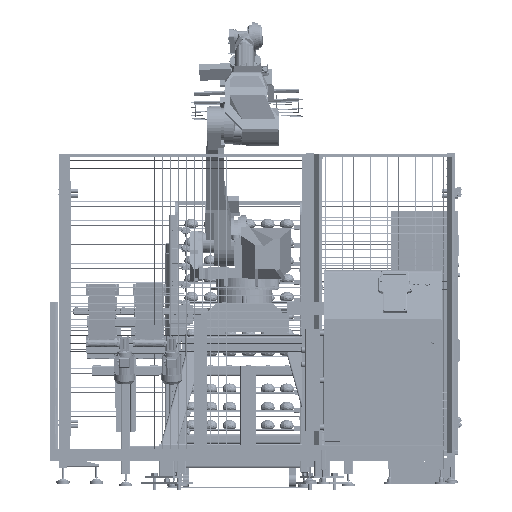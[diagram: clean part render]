
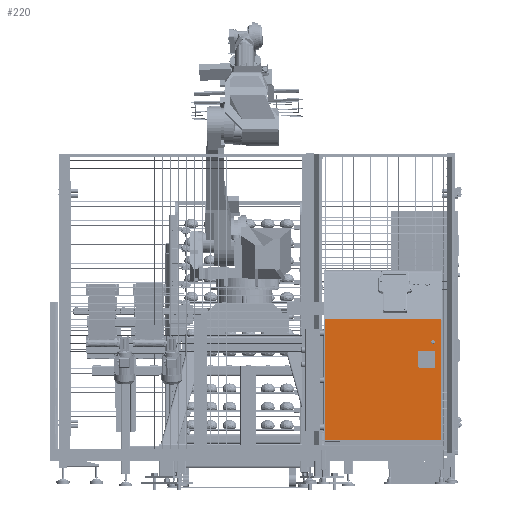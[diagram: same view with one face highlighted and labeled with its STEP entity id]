
A CAD part, left-side view. The second image highlights one B-rep face of the part: STEP entity #220.
In plain terms, the highlighted planar face has unit normal (-1, 0, 0) as drawn and (0, 0, 1) by its records, which use the part's own axes.
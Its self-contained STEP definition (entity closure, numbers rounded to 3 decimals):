
#220 = ADVANCED_FACE ( 'NONE', ( #80480, #281280, #470655 ), #156347, .F. ) ;
#1772 = EDGE_CURVE ( 'NONE', #175395, #409789, #363941, .T. ) ;
#8863 = EDGE_LOOP ( 'NONE', ( #258495, #340625 ) ) ;
#11629 = VERTEX_POINT ( 'NONE', #69929 ) ;
#12728 = LINE ( 'NONE', #183443, #190030 ) ;
#17175 = ORIENTED_EDGE ( 'NONE', *, *, #177081, .T. ) ;
#17374 = CIRCLE ( 'NONE', #393620, 4. ) ;
#20014 = DIRECTION ( 'NONE',  ( 0., 0., 1. ) ) ;
#27443 = ORIENTED_EDGE ( 'NONE', *, *, #204150, .F. ) ;
#36175 = CARTESIAN_POINT ( 'NONE',  ( 223., 588.5, 275. ) ) ;
#37891 = VERTEX_POINT ( 'NONE', #140637 ) ;
#40144 = LINE ( 'NONE', #365012, #229204 ) ;
#43004 = AXIS2_PLACEMENT_3D ( 'NONE', #232363, #82042, #346258 ) ;
#45496 = VECTOR ( 'NONE', #133326, 1000. ) ;
#52110 = VECTOR ( 'NONE', #282692, 1000. ) ;
#57157 = CIRCLE ( 'NONE', #235086, 4. ) ;
#58330 = AXIS2_PLACEMENT_3D ( 'NONE', #191273, #455718, #229239 ) ;
#63084 = AXIS2_PLACEMENT_3D ( 'NONE', #246120, #20014, #284112 ) ;
#67833 = EDGE_CURVE ( 'NONE', #409789, #143420, #135337, .T. ) ;
#69174 = LINE ( 'NONE', #247239, #45496 ) ;
#69929 = CARTESIAN_POINT ( 'NONE',  ( 326.5, 651.5, 275. ) ) ;
#78921 = CARTESIAN_POINT ( 'NONE',  ( 323., 588.5, 275. ) ) ;
#80480 = FACE_BOUND ( 'NONE', #191364, .T. ) ;
#82042 = DIRECTION ( 'NONE',  ( 0., 0., -1. ) ) ;
#84262 = CARTESIAN_POINT ( 'NONE',  ( 327., 588.5, 275. ) ) ;
#91259 = VERTEX_POINT ( 'NONE', #135946 ) ;
#94066 = VERTEX_POINT ( 'NONE', #104956 ) ;
#104956 = CARTESIAN_POINT ( 'NONE',  ( 227., 592.5, 275. ) ) ;
#109235 = EDGE_CURVE ( 'NONE', #239864, #200751, #57157, .T. ) ;
#116851 = DIRECTION ( 'NONE',  ( -1., 0., 0. ) ) ;
#126426 = CIRCLE ( 'NONE', #476875, 11.5 ) ;
#133326 = DIRECTION ( 'NONE',  ( 1., 0., 0. ) ) ;
#135337 = CIRCLE ( 'NONE', #63084, 4. ) ;
#135534 = CARTESIAN_POINT ( 'NONE',  ( 327., 492.5, 275. ) ) ;
#135946 = CARTESIAN_POINT ( 'NONE',  ( 365., 33., 275. ) ) ;
#140289 = DIRECTION ( 'NONE',  ( 1., 0., 0. ) ) ;
#140637 = CARTESIAN_POINT ( 'NONE',  ( -365., 33., 275. ) ) ;
#143420 = VERTEX_POINT ( 'NONE', #281886 ) ;
#156347 = PLANE ( 'NONE',  #43004 ) ;
#158372 = CARTESIAN_POINT ( 'NONE',  ( 315., 651.5, 275. ) ) ;
#162913 = VECTOR ( 'NONE', #364464, 1000. ) ;
#163039 = LINE ( 'NONE', #230416, #352218 ) ;
#168024 = CARTESIAN_POINT ( 'NONE',  ( 303.5, 651.5, 275. ) ) ;
#172307 = DIRECTION ( 'NONE',  ( 0., 1., 0. ) ) ;
#175395 = VERTEX_POINT ( 'NONE', #36175 ) ;
#177081 = EDGE_CURVE ( 'NONE', #37891, #91259, #40144, .T. ) ;
#177884 = AXIS2_PLACEMENT_3D ( 'NONE', #158372, #422855, #196435 ) ;
#181206 = CARTESIAN_POINT ( 'NONE',  ( 315., 651.5, 275. ) ) ;
#183443 = CARTESIAN_POINT ( 'NONE',  ( -365., 1100., 275. ) ) ;
#188804 = CARTESIAN_POINT ( 'NONE',  ( 323., 592.5, 275. ) ) ;
#189640 = ORIENTED_EDGE ( 'NONE', *, *, #317882, .T. ) ;
#190030 = VECTOR ( 'NONE', #409898, 1000. ) ;
#191273 = CARTESIAN_POINT ( 'NONE',  ( 227., 588.5, 275. ) ) ;
#191364 = EDGE_LOOP ( 'NONE', ( #269158, #273017, #287563, #449625, #27443, #407002, #423686, #247236 ) ) ;
#196435 = DIRECTION ( 'NONE',  ( -1., 0., 0. ) ) ;
#200751 = VERTEX_POINT ( 'NONE', #135534 ) ;
#204150 = EDGE_CURVE ( 'NONE', #200751, #402776, #353512, .T. ) ;
#212551 = CARTESIAN_POINT ( 'NONE',  ( 323., 492.5, 275. ) ) ;
#219248 = DIRECTION ( 'NONE',  ( -1., 0., 0. ) ) ;
#229204 = VECTOR ( 'NONE', #140289, 1000. ) ;
#229239 = DIRECTION ( 'NONE',  ( -1., 0., 0. ) ) ;
#229578 = EDGE_LOOP ( 'NONE', ( #189640, #17175, #266011, #321264 ) ) ;
#230416 = CARTESIAN_POINT ( 'NONE',  ( -370., 796.5, 275. ) ) ;
#230747 = CIRCLE ( 'NONE', #177884, 11.5 ) ;
#232363 = CARTESIAN_POINT ( 'NONE',  ( -370., 1100., 275. ) ) ;
#235086 = AXIS2_PLACEMENT_3D ( 'NONE', #212551, #476991, #250406 ) ;
#238825 = EDGE_CURVE ( 'NONE', #404060, #393688, #163039, .T. ) ;
#239864 = VERTEX_POINT ( 'NONE', #328653 ) ;
#246120 = CARTESIAN_POINT ( 'NONE',  ( 227., 492.5, 275. ) ) ;
#246483 = EDGE_CURVE ( 'NONE', #94066, #175395, #463918, .T. ) ;
#247236 = ORIENTED_EDGE ( 'NONE', *, *, #67833, .F. ) ;
#247239 = CARTESIAN_POINT ( 'NONE',  ( -370., 488.5, 275. ) ) ;
#250406 = DIRECTION ( 'NONE',  ( -1., 0., 0. ) ) ;
#258495 = ORIENTED_EDGE ( 'NONE', *, *, #370370, .F. ) ;
#266011 = ORIENTED_EDGE ( 'NONE', *, *, #440106, .T. ) ;
#269158 = ORIENTED_EDGE ( 'NONE', *, *, #1772, .F. ) ;
#271601 = DIRECTION ( 'NONE',  ( -1., 0., 0. ) ) ;
#272650 = CARTESIAN_POINT ( 'NONE',  ( 223., 492.5, 275. ) ) ;
#273017 = ORIENTED_EDGE ( 'NONE', *, *, #246483, .F. ) ;
#279469 = VERTEX_POINT ( 'NONE', #168024 ) ;
#281280 = FACE_OUTER_BOUND ( 'NONE', #229578, .T. ) ;
#281886 = CARTESIAN_POINT ( 'NONE',  ( 227., 488.5, 275. ) ) ;
#282692 = DIRECTION ( 'NONE',  ( 0., 1., 0. ) ) ;
#284112 = DIRECTION ( 'NONE',  ( -1., 0., 0. ) ) ;
#287563 = ORIENTED_EDGE ( 'NONE', *, *, #379855, .F. ) ;
#290051 = VECTOR ( 'NONE', #172307, 1000. ) ;
#303280 = EDGE_CURVE ( 'NONE', #402776, #477132, #17374, .T. ) ;
#309542 = CARTESIAN_POINT ( 'NONE',  ( -370., 592.5, 275. ) ) ;
#317882 = EDGE_CURVE ( 'NONE', #393688, #37891, #12728, .T. ) ;
#319055 = CARTESIAN_POINT ( 'NONE',  ( 327., 1100., 275. ) ) ;
#321264 = ORIENTED_EDGE ( 'NONE', *, *, #238825, .T. ) ;
#326418 = CARTESIAN_POINT ( 'NONE',  ( 223., 1100., 275. ) ) ;
#328653 = CARTESIAN_POINT ( 'NONE',  ( 323., 488.5, 275. ) ) ;
#340625 = ORIENTED_EDGE ( 'NONE', *, *, #376303, .F. ) ;
#342935 = VECTOR ( 'NONE', #271601, 1000. ) ;
#343155 = DIRECTION ( 'NONE',  ( 0., 0., 1. ) ) ;
#346258 = DIRECTION ( 'NONE',  ( -1., 0., 0. ) ) ;
#352218 = VECTOR ( 'NONE', #456876, 1000. ) ;
#353512 = LINE ( 'NONE', #319055, #52110 ) ;
#363941 = LINE ( 'NONE', #326418, #162913 ) ;
#364464 = DIRECTION ( 'NONE',  ( 0., -1., 0. ) ) ;
#365012 = CARTESIAN_POINT ( 'NONE',  ( -370., 33., 275. ) ) ;
#370370 = EDGE_CURVE ( 'NONE', #279469, #11629, #230747, .T. ) ;
#373720 = EDGE_CURVE ( 'NONE', #143420, #239864, #69174, .T. ) ;
#376303 = EDGE_CURVE ( 'NONE', #11629, #279469, #126426, .T. ) ;
#379855 = EDGE_CURVE ( 'NONE', #477132, #94066, #443553, .T. ) ;
#393620 = AXIS2_PLACEMENT_3D ( 'NONE', #78921, #343155, #116851 ) ;
#393688 = VERTEX_POINT ( 'NONE', #477145 ) ;
#402776 = VERTEX_POINT ( 'NONE', #84262 ) ;
#404060 = VERTEX_POINT ( 'NONE', #478365 ) ;
#407002 = ORIENTED_EDGE ( 'NONE', *, *, #109235, .F. ) ;
#409789 = VERTEX_POINT ( 'NONE', #272650 ) ;
#409898 = DIRECTION ( 'NONE',  ( 0., -1., 0. ) ) ;
#422855 = DIRECTION ( 'NONE',  ( 0., 0., 1. ) ) ;
#423686 = ORIENTED_EDGE ( 'NONE', *, *, #373720, .F. ) ;
#436787 = CARTESIAN_POINT ( 'NONE',  ( 365., 1100., 275. ) ) ;
#440106 = EDGE_CURVE ( 'NONE', #91259, #404060, #479457, .T. ) ;
#443553 = LINE ( 'NONE', #309542, #342935 ) ;
#445675 = DIRECTION ( 'NONE',  ( 0., 0., 1. ) ) ;
#449625 = ORIENTED_EDGE ( 'NONE', *, *, #303280, .F. ) ;
#455718 = DIRECTION ( 'NONE',  ( 0., 0., 1. ) ) ;
#456876 = DIRECTION ( 'NONE',  ( -1., 0., 0. ) ) ;
#463918 = CIRCLE ( 'NONE', #58330, 4. ) ;
#470655 = FACE_BOUND ( 'NONE', #8863, .T. ) ;
#476875 = AXIS2_PLACEMENT_3D ( 'NONE', #181206, #445675, #219248 ) ;
#476991 = DIRECTION ( 'NONE',  ( 0., 0., 1. ) ) ;
#477132 = VERTEX_POINT ( 'NONE', #188804 ) ;
#477145 = CARTESIAN_POINT ( 'NONE',  ( -365., 796.5, 275. ) ) ;
#478365 = CARTESIAN_POINT ( 'NONE',  ( 365., 796.5, 275. ) ) ;
#479457 = LINE ( 'NONE', #436787, #290051 ) ;
